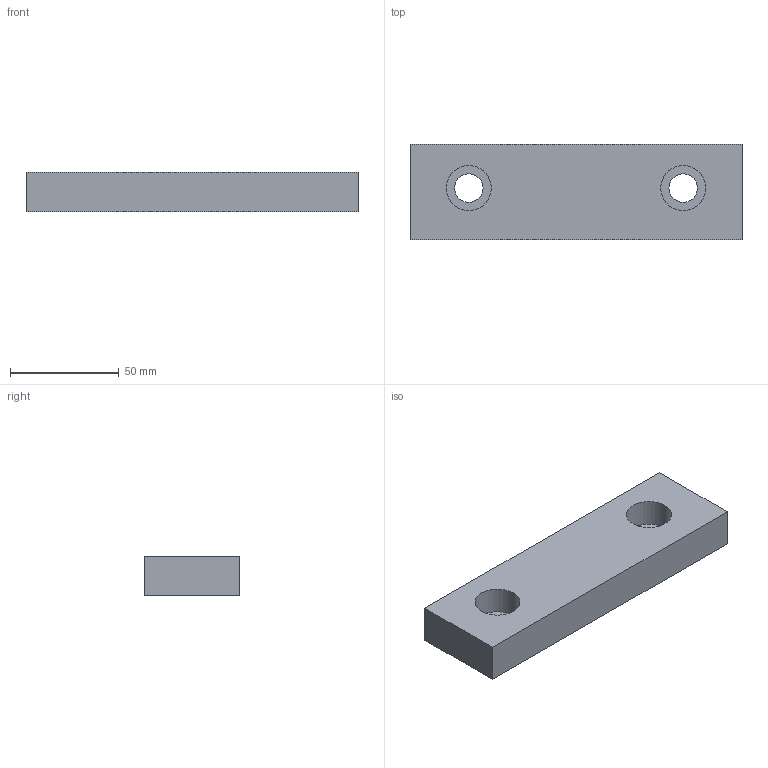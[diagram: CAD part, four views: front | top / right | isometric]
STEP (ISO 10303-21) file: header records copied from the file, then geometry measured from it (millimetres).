
FILE_DESCRIPTION (( 'STEP AP214' ), '1' );
FILE_NAME ('HMVJ-6S [05-0231 ref].step', '2023-05-02T20:46:29', ( '' ), ( '' ), 'SwSTEP 2.0', 'SolidWorks 2022', '' );
FILE_SCHEMA (( 'AUTOMOTIVE_DESIGN' ));
Length unit declared in the file: millimetre
Products named in the file (1): HMVJ-6S [05-0231 ref]
Bounding box: 152.4 x 44 x 18 mm (x, y, z)
Volume: 110776.5 mm3; surface area: 22025.7 mm2
Topology: 1 solids, 1 shells, 16 faces, 36 edges, 24 vertices
Faces by surface type: cylinder 8, plane 8
Entity records: 608 total; most frequent: DIRECTION 86, CARTESIAN_POINT 77, ORIENTED_EDGE 72, EDGE_CURVE 36, AXIS2_PLACEMENT_3D 33, VERTEX_POINT 24, EDGE_LOOP 22, VECTOR 20
